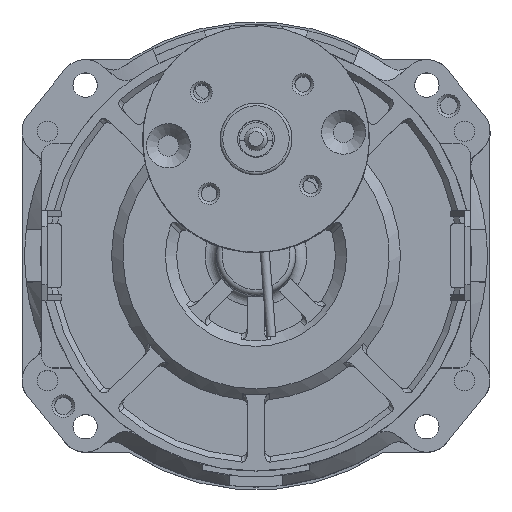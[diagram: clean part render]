
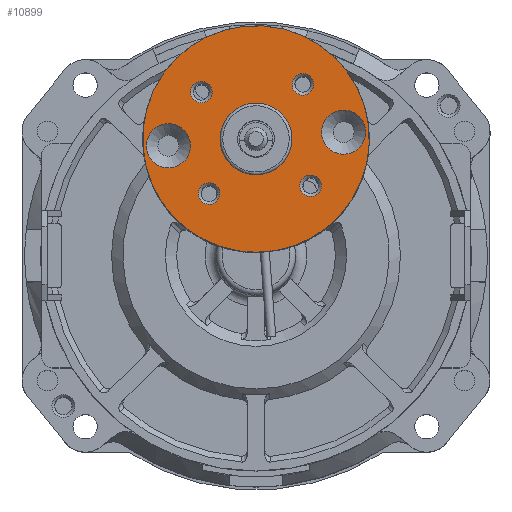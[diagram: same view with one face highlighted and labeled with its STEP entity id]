
A CAD part, top view. The second image highlights one B-rep face of the part: STEP entity #10899.
In plain terms, the highlighted planar face has unit normal (0, 0, 1).
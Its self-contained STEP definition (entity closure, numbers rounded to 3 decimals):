
#643=FACE_BOUND('',#2385,.T.);
#644=FACE_BOUND('',#2386,.T.);
#645=FACE_BOUND('',#2387,.T.);
#646=FACE_BOUND('',#2388,.T.);
#647=FACE_BOUND('',#2389,.T.);
#648=FACE_BOUND('',#2390,.T.);
#649=FACE_BOUND('',#2391,.T.);
#1532=FACE_OUTER_BOUND('',#2384,.T.);
#2384=EDGE_LOOP('',(#9874));
#2385=EDGE_LOOP('',(#9875));
#2386=EDGE_LOOP('',(#9876));
#2387=EDGE_LOOP('',(#9877));
#2388=EDGE_LOOP('',(#9878));
#2389=EDGE_LOOP('',(#9879));
#2390=EDGE_LOOP('',(#9880));
#2391=EDGE_LOOP('',(#9881));
#4289=CIRCLE('',#12101,3.9);
#4292=CIRCLE('',#12106,3.9);
#4296=CIRCLE('',#12112,1.9);
#4297=CIRCLE('',#12114,20.);
#4298=CIRCLE('',#12115,1.9);
#4299=CIRCLE('',#12116,1.9);
#4300=CIRCLE('',#12117,6.35);
#4301=CIRCLE('',#12118,1.9);
#5348=VERTEX_POINT('',#20606);
#5351=VERTEX_POINT('',#20614);
#5355=VERTEX_POINT('',#20624);
#5356=VERTEX_POINT('',#20627);
#5357=VERTEX_POINT('',#20629);
#5358=VERTEX_POINT('',#20631);
#5359=VERTEX_POINT('',#20633);
#5360=VERTEX_POINT('',#20635);
#6862=EDGE_CURVE('',#5348,#5348,#4289,.T.);
#6865=EDGE_CURVE('',#5351,#5351,#4292,.T.);
#6869=EDGE_CURVE('',#5355,#5355,#4296,.T.);
#6870=EDGE_CURVE('',#5356,#5356,#4297,.T.);
#6871=EDGE_CURVE('',#5357,#5357,#4298,.T.);
#6872=EDGE_CURVE('',#5358,#5358,#4299,.T.);
#6873=EDGE_CURVE('',#5359,#5359,#4300,.T.);
#6874=EDGE_CURVE('',#5360,#5360,#4301,.T.);
#9874=ORIENTED_EDGE('',*,*,#6870,.F.);
#9875=ORIENTED_EDGE('',*,*,#6862,.T.);
#9876=ORIENTED_EDGE('',*,*,#6865,.T.);
#9877=ORIENTED_EDGE('',*,*,#6871,.F.);
#9878=ORIENTED_EDGE('',*,*,#6872,.F.);
#9879=ORIENTED_EDGE('',*,*,#6873,.T.);
#9880=ORIENTED_EDGE('',*,*,#6874,.F.);
#9881=ORIENTED_EDGE('',*,*,#6869,.F.);
#10266=PLANE('',#12113);
#10899=ADVANCED_FACE('',(#1532,#643,#644,#645,#646,#647,#648,#649),#10266,
 .F.);
#12101=AXIS2_PLACEMENT_3D('',#20607,#15157,#15158);
#12106=AXIS2_PLACEMENT_3D('',#20615,#15167,#15168);
#12112=AXIS2_PLACEMENT_3D('',#20625,#15179,#15180);
#12113=AXIS2_PLACEMENT_3D('',#20626,#15181,#15182);
#12114=AXIS2_PLACEMENT_3D('',#20628,#15183,#15184);
#12115=AXIS2_PLACEMENT_3D('',#20630,#15185,#15186);
#12116=AXIS2_PLACEMENT_3D('',#20632,#15187,#15188);
#12117=AXIS2_PLACEMENT_3D('',#20634,#15189,#15190);
#12118=AXIS2_PLACEMENT_3D('',#20636,#15191,#15192);
#15157=DIRECTION('center_axis',(0.,0.,-1.));
#15158=DIRECTION('ref_axis',(-1.,0.,0.));
#15167=DIRECTION('center_axis',(0.,0.,-1.));
#15168=DIRECTION('ref_axis',(1.,0.,0.));
#15179=DIRECTION('center_axis',(0.,0.,1.));
#15180=DIRECTION('ref_axis',(0.,-1.,0.));
#15181=DIRECTION('center_axis',(0.,0.,-1.));
#15182=DIRECTION('ref_axis',(-1.,0.,0.));
#15183=DIRECTION('center_axis',(0.,0.,-1.));
#15184=DIRECTION('ref_axis',(-1.,0.,0.));
#15185=DIRECTION('center_axis',(0.,0.,1.));
#15186=DIRECTION('ref_axis',(1.,0.,0.));
#15187=DIRECTION('center_axis',(0.,0.,1.));
#15188=DIRECTION('ref_axis',(-1.,0.,0.));
#15189=DIRECTION('center_axis',(0.,0.,-1.));
#15190=DIRECTION('ref_axis',(-1.,0.,0.));
#15191=DIRECTION('center_axis',(0.,0.,1.));
#15192=DIRECTION('ref_axis',(0.,1.,0.));
#20606=CARTESIAN_POINT('',(-19.4,0.,12.6));
#20607=CARTESIAN_POINT('Origin',(-15.5,0.,12.6));
#20614=CARTESIAN_POINT('',(19.4,0.,12.6));
#20615=CARTESIAN_POINT('Origin',(15.5,0.,12.6));
#20624=CARTESIAN_POINT('',(-8.98,10.88,12.6));
#20625=CARTESIAN_POINT('Origin',(-8.98,8.98,12.6));
#20626=CARTESIAN_POINT('Origin',(0.,0.,12.6));
#20627=CARTESIAN_POINT('',(20.,0.,12.6));
#20628=CARTESIAN_POINT('Origin',(0.,0.,12.6));
#20629=CARTESIAN_POINT('',(-10.88,-8.98,12.6));
#20630=CARTESIAN_POINT('Origin',(-8.98,-8.98,12.6));
#20631=CARTESIAN_POINT('',(10.88,8.98,12.6));
#20632=CARTESIAN_POINT('Origin',(8.98,8.98,12.6));
#20633=CARTESIAN_POINT('',(6.35,0.,12.6));
#20634=CARTESIAN_POINT('Origin',(0.,0.,12.6));
#20635=CARTESIAN_POINT('',(8.98,-10.88,12.6));
#20636=CARTESIAN_POINT('Origin',(8.98,-8.98,12.6));
